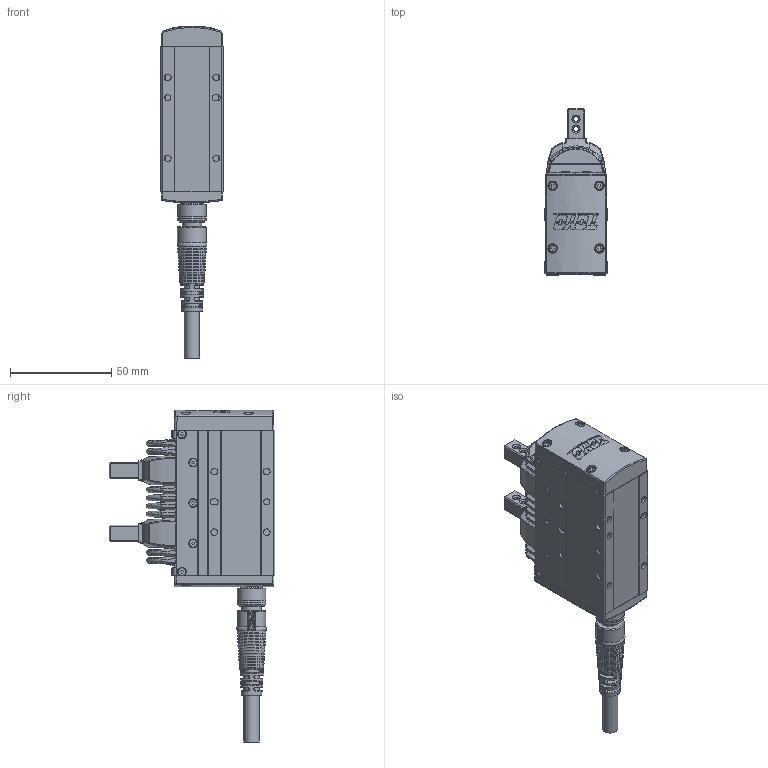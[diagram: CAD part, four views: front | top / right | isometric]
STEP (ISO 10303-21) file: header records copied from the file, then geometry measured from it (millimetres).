
FILE_DESCRIPTION(/* description */ ('STEP AP214'),/* implementation_level */ '2;1');
FILE_NAME(/* name */ 'D:\2025.02.25 帶電匯整給泊舟\3. CHS2系列\4.3D組立\CHS2C-S20-180.stp',/* time_stamp */ '2025-02-25T18:16:10+08:00',/* author */ ('T10033'),/* organization */ (''),/* preprocessor_version */ 'ST-DEVELOPER v18.1',/* originating_system */ 'Autodesk Inventor 2020',/* authorisation */ '');
FILE_SCHEMA (('CONFIG_CONTROL_DESIGN'));
Products named in the file (8): CHS2-S20加防塵套組合圖-04.2+法蘭; socket head cap screw 4762_din_EN ISO 4762 M2 x 8 - 8S; socket head cap screw_iso_ISO 4762 M2 x 6 - 6S; M12 -14PIN  板端-第一種規格; M12-14PIN 線端180度接頭-05中繼線; 22149-000003-02; 12005-000068-02_¹w³]_¾÷¾¹¥
[¤u_; 32534T3_Shrinkwrap_1
Assembly tree (12 placements, depth 2):
  CHS2-S20加防塵套組合圖-04.2+法蘭
    socket head cap screw 4762_din_EN ISO 4762 M2 x 8 - 8S  x4
    socket head cap screw_iso_ISO 4762 M2 x 6 - 6S  x2
    M12 -14PIN  板端-第一種規格
    M12-14PIN 線端180度接頭-05中繼線
    22149-000003-02
    12005-000068-02_¹w³]_¾÷¾¹¥
[¤u_  x2
    32534T3_Shrinkwrap_1
Bounding box: 31 x 82 x 164.12 mm (x, y, z)
Volume: 137628.1 mm3; surface area: 52255.9 mm2
Topology: 29 solids, 37 shells, 3015 faces, 8412 edges, 5605 vertices
Faces by surface type: plane 1328, cylinder 632, cone 518, bspline 466, torus 63, sphere 8
Full cylindrical faces by diameter (mm): 0.6 x14, 0.65 x14, 0.8 x2, 1 x14, 1.8 x5, 2 x132, 2.2 x10, 2.5 x8, 2.6 x4, 3 x7, 3.3 x12, 3.8 x16, 4 x4, 4.8 x4, 7.5 x1, 8 x1, 8.9 x1, 9.5 x2, 9.6 x1, 10.5 x2, 11 x1, 11.2 x5, 12 x1, 13 x1, 13.8 x1, 14 x2, 16.482 x1
Entity records: 129187 total; most frequent: CARTESIAN_POINT 60339, ORIENTED_EDGE 14798, DIRECTION 13098, EDGE_CURVE 7399, AXIS2_PLACEMENT_3D 4975, VERTEX_POINT 4920, LINE 3148, VECTOR 3148
